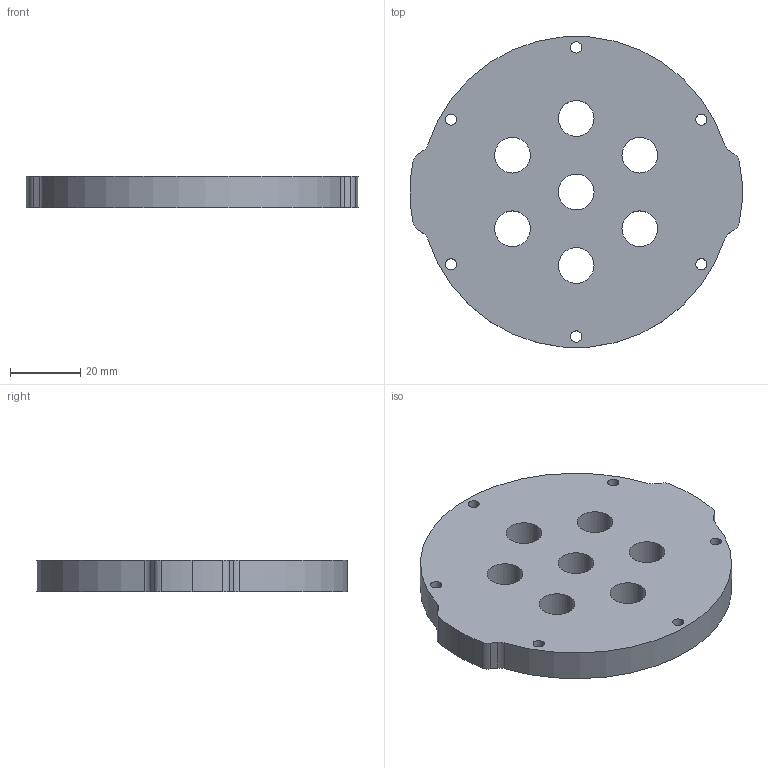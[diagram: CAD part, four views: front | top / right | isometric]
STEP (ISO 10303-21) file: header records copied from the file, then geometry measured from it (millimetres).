
FILE_DESCRIPTION (( 'STEP AP214' ), '1' );
FILE_NAME ('WTE3-P-END-CAP-7-HOLE-R1.STEP', '2018-10-16T22:51:37', ( '' ), ( '' ), 'SwSTEP 2.0', 'SolidWorks 2016', '' );
FILE_SCHEMA (( 'AUTOMOTIVE_DESIGN' ));
Length unit declared in the file: millimetre
Products named in the file (1): WTE3-P-END-CAP-7-HOLE-R1
Bounding box: 94.8 x 88.59 x 9 mm (x, y, z)
Volume: 51496.3 mm3; surface area: 16578.4 mm2
Topology: 1 solids, 1 shells, 45 faces, 129 edges, 86 vertices
Faces by surface type: cylinder 39, plane 6
Entity records: 1607 total; most frequent: DIRECTION 299, CARTESIAN_POINT 261, ORIENTED_EDGE 258, EDGE_CURVE 129, AXIS2_PLACEMENT_3D 124, VERTEX_POINT 86, CIRCLE 78, EDGE_LOOP 71
